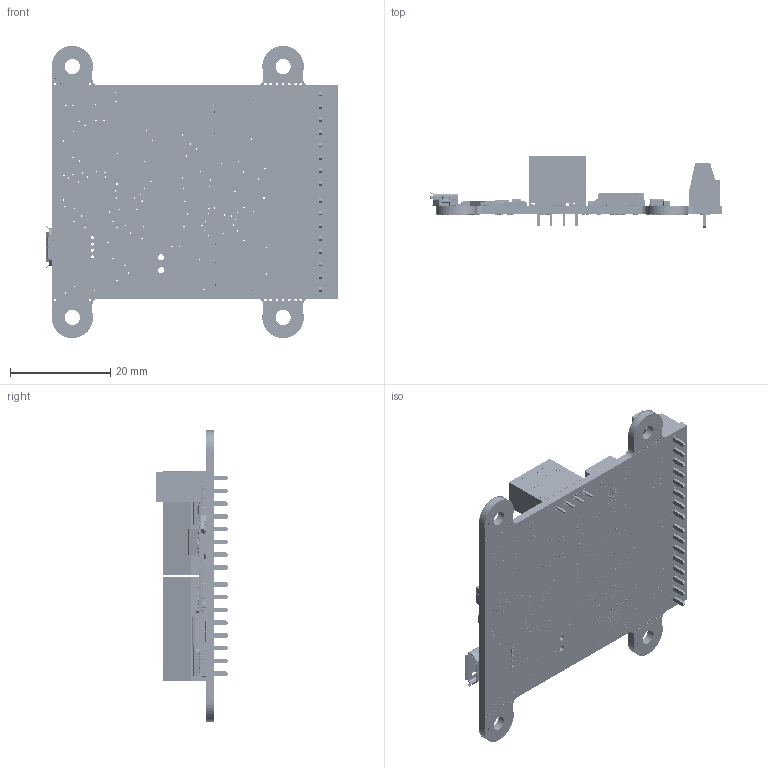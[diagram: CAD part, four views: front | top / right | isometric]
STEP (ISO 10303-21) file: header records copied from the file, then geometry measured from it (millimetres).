
FILE_DESCRIPTION (( 'STEP AP214' ), '1' );
FILE_NAME ('MAXIIO02.STEP', '2017-05-26T14:12:30', ( 'martinm' ), ( '' ), 'SwSTEP 2.0', 'SolidWorks 2008', '' );
FILE_SCHEMA (( 'AUTOMOTIVE_DESIGN' ));
Length unit declared in the file: millimetre
Products named in the file (47): PCB; C16; C18; C19; C27; C28; C52; C53; C201; C203; C204; C301; C302; C303; D4; D10; IC100; IO4; L51; P3; PVSS; R1; R2; R3; R7; R8; R10; R11; R13; R25; R29; R36; R38; R103; REG1; RELAY1; SW1; T9; U1; U2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
Assembly tree (107 placements, depth 2):
  PVSS
  MAXIIO02
    C28  x9
    C18
    R7
    R11
    R36  x8
    U202  x2
    C19
    D10  x8
    sens1
    C27  x8
    C204  x2
    C201  x10
    R1
    R13  x2
    R25  x3
    RELAY1
    C303
    R3
    R10  x2
    R38  x8
    reg300
    C16
    C301  x4
    R29  x4
    T9  x2
    USB1
    PCB
    IO4
    C203  x2
    R103  x3
    U1
    U2
    SW1
    C52
    R2
    alim50
    C53
    D4
    L51
    P3  x2
    C302
    REG1
    IC100
    YLED
    R8
Bounding box: 58.3 x 14.4 x 58.25 mm (x, y, z)
Volume: 7386.9 mm3; surface area: 11120 mm2
Topology: 143 solids, 143 shells, 14932 faces, 38414 edges, 24718 vertices
Faces by surface type: plane 9267, cylinder 3960, bspline 1298, sphere 400, torus 7
Entity records: 479610 total; most frequent: CARTESIAN_POINT 114922, ORIENTED_EDGE 54224, DIRECTION 50238, EDGE_CURVE 27112, LINE 19350, VECTOR 19350, VERTEX_POINT 17885, AXIS2_PLACEMENT_3D 15444
